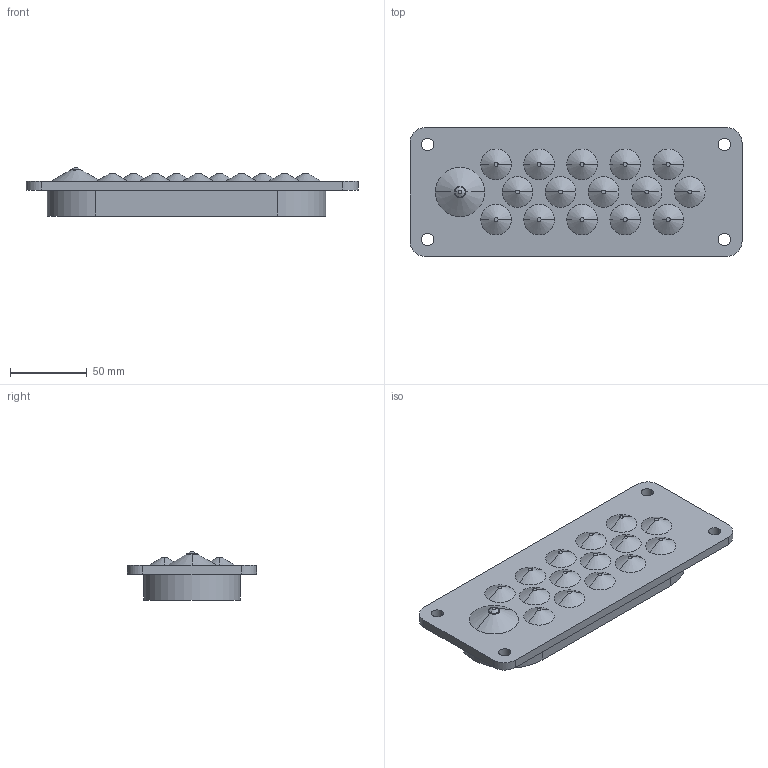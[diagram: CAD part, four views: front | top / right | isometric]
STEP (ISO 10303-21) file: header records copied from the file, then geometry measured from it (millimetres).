
FILE_DESCRIPTION (( 'STEP AP203' ), '1' );
FILE_NAME ('100084.STEP', '2012-12-11T06:51:12', ( 'Joni' ), ( 'Hewlett-Packard Company' ), 'SwSTEP 2.0', 'SolidWorks 2012', '' );
FILE_SCHEMA (( 'CONFIG_CONTROL_DESIGN' ));
Length unit declared in the file: millimetre
Products named in the file (1): 100084
Bounding box: 216 x 84 x 31.36 mm (x, y, z)
Volume: 215947.4 mm3; surface area: 64987.1 mm2
Topology: 1 solids, 2 shells, 130 faces, 275 edges, 182 vertices
Faces by surface type: cylinder 47, plane 43, cone 38, bspline 2
Entity records: 3752 total; most frequent: DIRECTION 701, CARTESIAN_POINT 684, ORIENTED_EDGE 550, AXIS2_PLACEMENT_3D 299, EDGE_CURVE 275, VERTEX_POINT 182, EDGE_LOOP 171, CIRCLE 170
